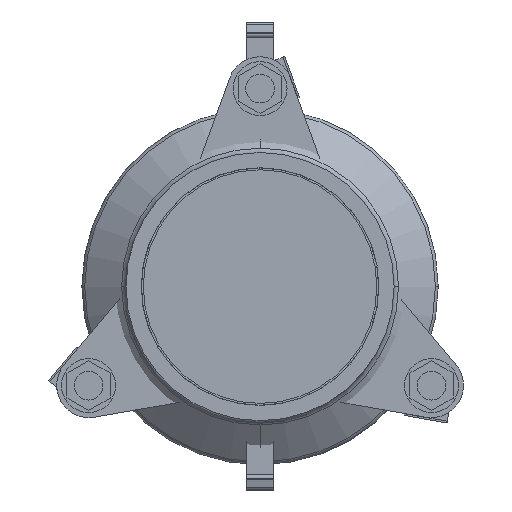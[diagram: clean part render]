
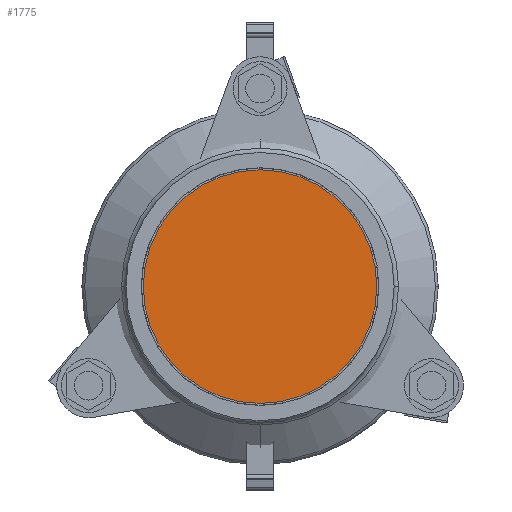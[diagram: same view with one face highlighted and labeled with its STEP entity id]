
A CAD part, left-side view. The second image highlights one B-rep face of the part: STEP entity #1775.
In plain terms, the highlighted planar face has unit normal (-1, 0, 0).
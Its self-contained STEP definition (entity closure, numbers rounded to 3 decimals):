
#1775=ADVANCED_FACE('',(#3438),#3439,.T.);
#3438=FACE_OUTER_BOUND('',#5484,.T.);
#3439=PLANE('',#5485);
#5484=EDGE_LOOP('',(#8502,#8503));
#5485=AXIS2_PLACEMENT_3D('',#8504,#8505,#8506);
#8502=ORIENTED_EDGE('',*,*,#11882,.T.);
#8503=ORIENTED_EDGE('',*,*,#12068,.T.);
#8504=CARTESIAN_POINT('',(9.5,0.0,0.0));
#8505=DIRECTION('',(-1.0,0.0,0.));
#8506=DIRECTION('',(0.,0.0,1.0));
#11882=EDGE_CURVE('',#14241,#14246,#14248,.T.);
#12068=EDGE_CURVE('',#14246,#14241,#14522,.T.);
#14241=VERTEX_POINT('',#17313);
#14246=VERTEX_POINT('',#17319);
#14248=CIRCLE('',#17322,74.5);
#14522=CIRCLE('',#17695,74.5);
#17313=CARTESIAN_POINT('',(9.5,0.0,-74.5));
#17319=CARTESIAN_POINT('',(9.5,0.,74.5));
#17322=AXIS2_PLACEMENT_3D('',#19801,#19802,#19803);
#17695=AXIS2_PLACEMENT_3D('',#20014,#20015,#20016);
#19801=CARTESIAN_POINT('',(9.5,0.0,0.0));
#19802=DIRECTION('',(-1.0,0.0,0.));
#19803=DIRECTION('',(0.,0.0,-1.0));
#20014=CARTESIAN_POINT('',(9.5,0.0,0.0));
#20015=DIRECTION('',(-1.0,0.0,0.));
#20016=DIRECTION('',(0.,0.0,-1.0));
